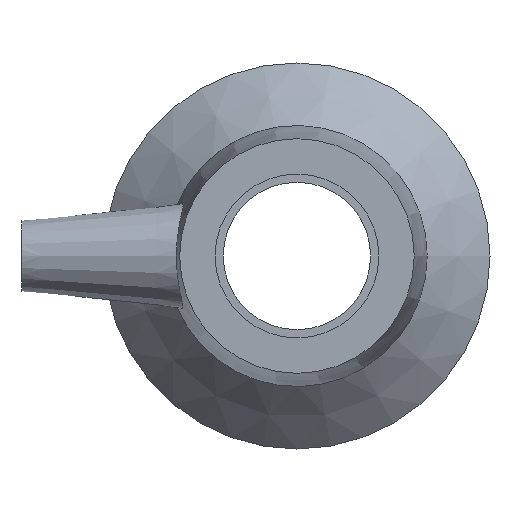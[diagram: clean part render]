
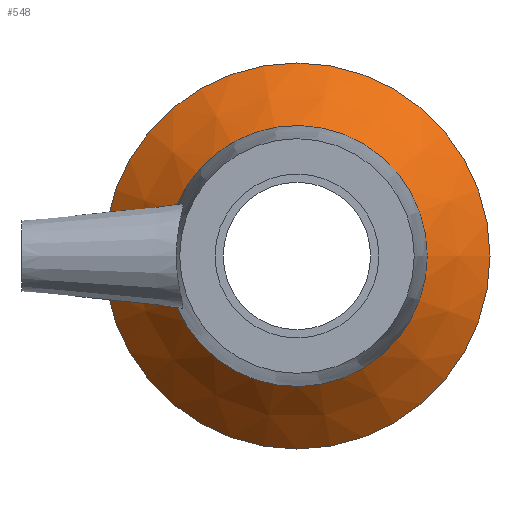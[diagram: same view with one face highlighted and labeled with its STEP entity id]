
A CAD part, left-side view. The second image highlights one B-rep face of the part: STEP entity #548.
In plain terms, the highlighted conical face has half-angle 45 degrees and reference radius 34.353 mm.
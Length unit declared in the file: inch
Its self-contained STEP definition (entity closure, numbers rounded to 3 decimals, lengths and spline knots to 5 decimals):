
#18=CONICAL_SURFACE('',#616,1.3525,0.785);
#44=LINE('',#1059,#63);
#63=VECTOR('',#743,1.3525);
#110=FACE_OUTER_BOUND('',#145,.T.);
#145=EDGE_LOOP('',(#415,#416,#417,#418,#419,#420));
#183=CIRCLE('',#612,1.09);
#184=CIRCLE('',#613,1.09);
#187=CIRCLE('',#617,1.615);
#188=CIRCLE('',#618,1.615);
#242=VERTEX_POINT('',#1046);
#243=VERTEX_POINT('',#1047);
#245=VERTEX_POINT('',#1055);
#246=VERTEX_POINT('',#1056);
#309=EDGE_CURVE('',#242,#243,#183,.T.);
#310=EDGE_CURVE('',#243,#242,#184,.T.);
#314=EDGE_CURVE('',#245,#246,#187,.T.);
#315=EDGE_CURVE('',#246,#245,#188,.T.);
#316=EDGE_CURVE('',#246,#243,#44,.T.);
#415=ORIENTED_EDGE('',*,*,#314,.F.);
#416=ORIENTED_EDGE('',*,*,#315,.F.);
#417=ORIENTED_EDGE('',*,*,#316,.T.);
#418=ORIENTED_EDGE('',*,*,#310,.T.);
#419=ORIENTED_EDGE('',*,*,#309,.T.);
#420=ORIENTED_EDGE('',*,*,#316,.F.);
#548=ADVANCED_FACE('',(#110),#18,.T.);
#612=AXIS2_PLACEMENT_3D('',#1048,#728,#729);
#613=AXIS2_PLACEMENT_3D('',#1049,#730,#731);
#616=AXIS2_PLACEMENT_3D('',#1054,#737,#738);
#617=AXIS2_PLACEMENT_3D('',#1057,#739,#740);
#618=AXIS2_PLACEMENT_3D('',#1058,#741,#742);
#728=DIRECTION('center_axis',(1.,0.,0.));
#729=DIRECTION('ref_axis',(0.,0.,-1.));
#730=DIRECTION('center_axis',(1.,0.,0.));
#731=DIRECTION('ref_axis',(0.,0.,-1.));
#737=DIRECTION('center_axis',(1.,0.,0.));
#738=DIRECTION('ref_axis',(0.,1.,0.));
#739=DIRECTION('center_axis',(1.,0.,0.));
#740=DIRECTION('ref_axis',(0.,0.,-1.));
#741=DIRECTION('center_axis',(1.,0.,0.));
#742=DIRECTION('ref_axis',(0.,0.,-1.));
#743=DIRECTION('',(-0.707,0.707,0.));
#1046=CARTESIAN_POINT('',(-0.80925,1.09,0.));
#1047=CARTESIAN_POINT('',(-0.80925,-1.09,0.));
#1048=CARTESIAN_POINT('Origin',(-0.80925,0.,
0.));
#1049=CARTESIAN_POINT('Origin',(-0.80925,0.,
0.));
#1054=CARTESIAN_POINT('Origin',(-0.54675,0.,0.));
#1055=CARTESIAN_POINT('',(-0.28425,1.615,0.));
#1056=CARTESIAN_POINT('',(-0.28425,-1.615,0.));
#1057=CARTESIAN_POINT('Origin',(-0.28425,0.,0.));
#1058=CARTESIAN_POINT('Origin',(-0.28425,0.,0.));
#1059=CARTESIAN_POINT('',(-0.54675,-1.3525,0.));
